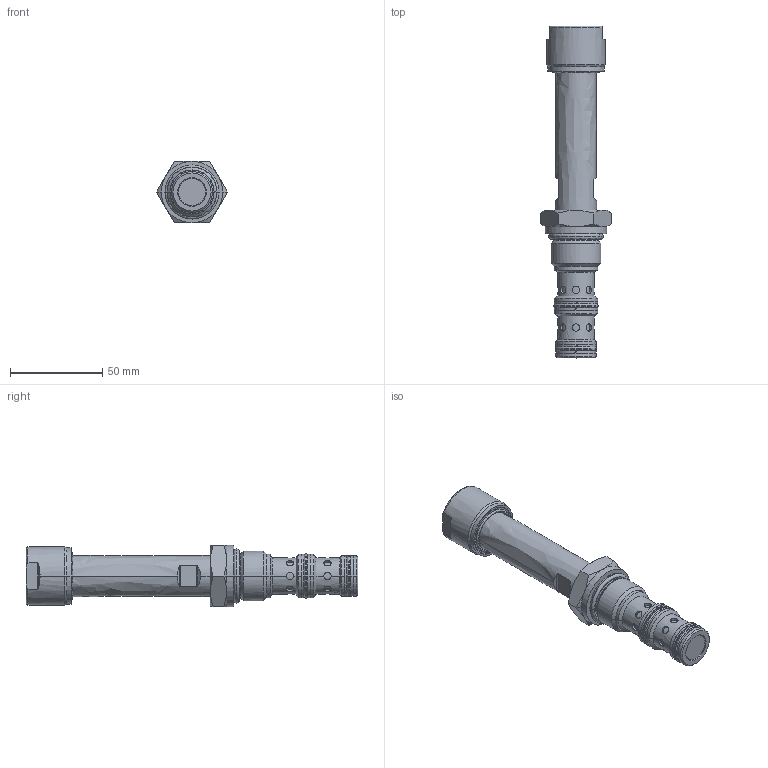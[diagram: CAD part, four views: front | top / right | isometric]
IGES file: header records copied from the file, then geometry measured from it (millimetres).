
Start section:  PTC IGES file: ESDV-12-3A-__.igs
Global section: file name: ESDV-12-3A-__.igs; native system: Creo Parametric by PTC Inc.; preprocessor: 2018360; author: torrese; organization: Unknown; date: 20201111.101443; units: inch
Bounding box: 38.48 x 179.81 x 33.32 mm (x, y, z)
Volume: 86993.6 mm3; surface area: 17781.8 mm2
Topology: 1 solids, 1 shells, 213 faces, 471 edges, 288 vertices
Faces by surface type: revolution 166, bspline 47
